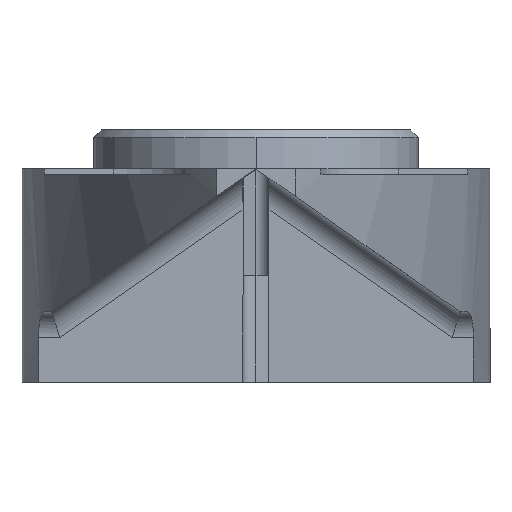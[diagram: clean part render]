
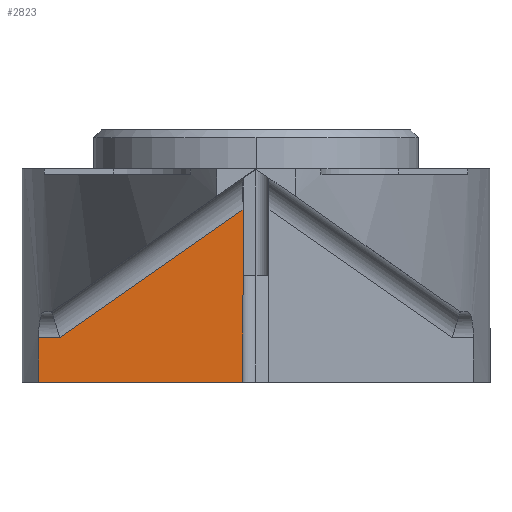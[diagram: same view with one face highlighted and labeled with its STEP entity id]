
A CAD part, left-side view. The second image highlights one B-rep face of the part: STEP entity #2823.
In plain terms, the highlighted planar face has unit normal (-1, 0, 0).
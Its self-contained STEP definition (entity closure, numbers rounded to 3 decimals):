
#36 = EDGE_LOOP ( 'NONE', ( #4103, #544, #882, #1528, #3052 ) ) ;
#275 = CARTESIAN_POINT ( 'NONE',  ( -23., 0.5, 0. ) ) ;
#282 = LINE ( 'NONE', #331, #3505 ) ;
#326 = CARTESIAN_POINT ( 'NONE',  ( -23., 8.362, 4.1 ) ) ;
#331 = CARTESIAN_POINT ( 'NONE',  ( -23., 0.5, 3.315 ) ) ;
#543 = DIRECTION ( 'NONE',  ( 0., 1., 0. ) ) ;
#544 = ORIENTED_EDGE ( 'NONE', *, *, #937, .F. ) ;
#554 = CARTESIAN_POINT ( 'NONE',  ( -23., 0., 0. ) ) ;
#645 = DIRECTION ( 'NONE',  ( 0., 0., 1. ) ) ;
#708 = FACE_OUTER_BOUND ( 'NONE', #36, .T. ) ;
#742 = VERTEX_POINT ( 'NONE', #275 ) ;
#817 = CARTESIAN_POINT ( 'NONE',  ( -23., 9.149, -0.663 ) ) ;
#882 = ORIENTED_EDGE ( 'NONE', *, *, #1960, .T. ) ;
#937 = EDGE_CURVE ( 'NONE', #742, #2632, #3885, .T. ) ;
#1061 = VECTOR ( 'NONE', #543, 1000. ) ;
#1073 = DIRECTION ( 'NONE',  ( 0., 0., 1. ) ) ;
#1528 = ORIENTED_EDGE ( 'NONE', *, *, #2580, .T. ) ;
#1543 = AXIS2_PLACEMENT_3D ( 'NONE', #817, #2507, #2451 ) ;
#1778 = CARTESIAN_POINT ( 'NONE',  ( -23., 4.343, 3.938 ) ) ;
#1960 = EDGE_CURVE ( 'NONE', #742, #3837, #282, .T. ) ;
#2373 = PLANE ( 'NONE',  #1543 ) ;
#2451 = DIRECTION ( 'NONE',  ( 0., -1., 0. ) ) ;
#2491 = CARTESIAN_POINT ( 'NONE',  ( -23., 0.5, 6.629 ) ) ;
#2507 = DIRECTION ( 'NONE',  ( -1., 0., 0. ) ) ;
#2553 = LINE ( 'NONE', #1778, #4119 ) ;
#2574 = VERTEX_POINT ( 'NONE', #3462 ) ;
#2580 = EDGE_CURVE ( 'NONE', #3837, #3425, #2553, .T. ) ;
#2604 = CARTESIAN_POINT ( 'NONE',  ( -23., 7.54, 1.7 ) ) ;
#2632 = VERTEX_POINT ( 'NONE', #2933 ) ;
#2751 = VECTOR ( 'NONE', #645, 1000. ) ;
#2823 = ADVANCED_FACE ( 'NONE', ( #708 ), #2373, .T. ) ;
#2851 = LINE ( 'NONE', #326, #2751 ) ;
#2865 = LINE ( 'NONE', #3035, #3635 ) ;
#2933 = CARTESIAN_POINT ( 'NONE',  ( -23., 8.362, 0. ) ) ;
#2937 = EDGE_CURVE ( 'NONE', #3425, #2574, #2865, .T. ) ;
#3035 = CARTESIAN_POINT ( 'NONE',  ( -23., 4.431, 1.7 ) ) ;
#3052 = ORIENTED_EDGE ( 'NONE', *, *, #2937, .T. ) ;
#3425 = VERTEX_POINT ( 'NONE', #2604 ) ;
#3462 = CARTESIAN_POINT ( 'NONE',  ( -23., 8.362, 1.7 ) ) ;
#3505 = VECTOR ( 'NONE', #1073, 1000. ) ;
#3635 = VECTOR ( 'NONE', #4136, 1000. ) ;
#3774 = DIRECTION ( 'NONE',  ( 0., 0.819, -0.574 ) ) ;
#3837 = VERTEX_POINT ( 'NONE', #2491 ) ;
#3885 = LINE ( 'NONE', #554, #1061 ) ;
#4103 = ORIENTED_EDGE ( 'NONE', *, *, #4149, .F. ) ;
#4119 = VECTOR ( 'NONE', #3774, 1000. ) ;
#4136 = DIRECTION ( 'NONE',  ( 0., 1., 0. ) ) ;
#4149 = EDGE_CURVE ( 'NONE', #2632, #2574, #2851, .T. ) ;
